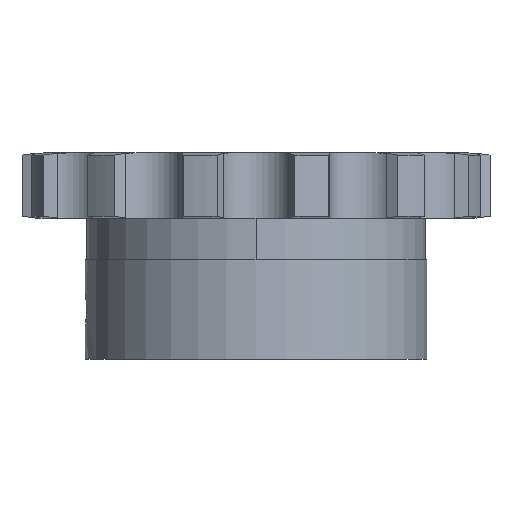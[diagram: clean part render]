
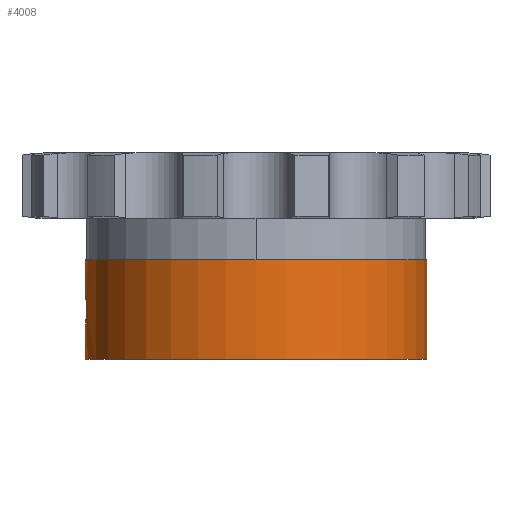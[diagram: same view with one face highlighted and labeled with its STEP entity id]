
A CAD part, front view. The second image highlights one B-rep face of the part: STEP entity #4008.
In plain terms, the highlighted cylindrical face has radius 29 mm (diameter 58 mm), a partial arc.
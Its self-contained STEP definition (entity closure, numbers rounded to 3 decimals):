
#997=CARTESIAN_POINT('',(-29.,0.,
-18.));
#1019=DIRECTION('',(0.,0.,1.));
#1020=VECTOR('',#1019,16.9);
#1021=CARTESIAN_POINT('',(29.,0.,-29.45));
#1022=LINE('',#1021,#1020);
#1145=CARTESIAN_POINT('',(0.,0.,-29.45));
#1146=DIRECTION('',(0.,0.,-1.));
#1147=DIRECTION('',(1.,0.,0.));
#1148=AXIS2_PLACEMENT_3D('',#1145,#1146,#1147);
#1174=CARTESIAN_POINT('',(-29.,0.,
-18.));
#1175=CARTESIAN_POINT('',(-29.,-0.161,
-18.));
#1176=CARTESIAN_POINT('',(-28.997,-0.479,
-18.024));
#1177=CARTESIAN_POINT('',(-28.985,-0.958,
-18.137));
#1178=CARTESIAN_POINT('',(-28.967,-1.413,
-18.323));
#1179=CARTESIAN_POINT('',(-28.943,-1.827,
-18.576));
#1180=CARTESIAN_POINT('',(-28.918,-2.193,
-18.885));
#1181=CARTESIAN_POINT('',(-28.892,-2.505,
-19.248));
#1182=CARTESIAN_POINT('',(-28.869,-2.756,
-19.656));
#1183=CARTESIAN_POINT('',(-28.851,-2.937,
-20.095));
#1184=CARTESIAN_POINT('',(-28.84,-3.043,
-20.551));
#1185=CARTESIAN_POINT('',(-28.837,-3.066,
-20.85));
#1186=CARTESIAN_POINT('',(-28.837,-3.066,
-21.));
#1191=DIRECTION('',(0.,0.,1.));
#1192=VECTOR('',#1191,5.45);
#1193=CARTESIAN_POINT('',(-29.,0.,
-18.));
#1194=LINE('',#1193,#1192);
#1198=CARTESIAN_POINT('',(0.,0.,-12.55));
#1199=DIRECTION('',(0.,0.,1.));
#1200=DIRECTION('',(-1.,0.,0.));
#1201=AXIS2_PLACEMENT_3D('',#1198,#1199,#1200);
#1206=DIRECTION('',(0.,0.,1.));
#1207=VECTOR('',#1206,5.45);
#1208=CARTESIAN_POINT('',(-29.,0.,-29.45));
#1209=LINE('',#1208,#1207);
#1213=CARTESIAN_POINT('',(-28.837,-3.066,
-21.));
#1214=CARTESIAN_POINT('',(-28.837,-3.066,
-21.149));
#1215=CARTESIAN_POINT('',(-28.84,-3.044,
-21.448));
#1216=CARTESIAN_POINT('',(-28.851,-2.937,
-21.903));
#1217=CARTESIAN_POINT('',(-28.869,-2.756,
-22.342));
#1218=CARTESIAN_POINT('',(-28.892,-2.506,
-22.751));
#1219=CARTESIAN_POINT('',(-28.918,-2.193,
-23.114));
#1220=CARTESIAN_POINT('',(-28.943,-1.828,
-23.424));
#1221=CARTESIAN_POINT('',(-28.967,-1.414,
-23.676));
#1222=CARTESIAN_POINT('',(-28.985,-0.959,
-23.863));
#1223=CARTESIAN_POINT('',(-28.997,-0.48,
-23.976));
#1224=CARTESIAN_POINT('',(-29.,-0.161,
-24.));
#1225=CARTESIAN_POINT('',(-29.,0.,
-24.));
#2681=CARTESIAN_POINT('',(-29.,0.,-29.45));
#2682=CARTESIAN_POINT('',(29.,0.,-29.45));
#2683=VERTEX_POINT('',#2681);
#2684=VERTEX_POINT('',#2682);
#2826=VERTEX_POINT('',#997);
#2829=VERTEX_POINT('',#1186);
#2831=VERTEX_POINT('',#1225);
#2841=CARTESIAN_POINT('',(29.,0.,-12.55));
#2842=CARTESIAN_POINT('',(-29.,0.,-12.55));
#2843=VERTEX_POINT('',#2841);
#2844=VERTEX_POINT('',#2842);
#3992=CARTESIAN_POINT('',(0.,0.,5.55));
#3993=DIRECTION('',(0.,0.,1.));
#3994=DIRECTION('',(1.,0.,0.));
#3995=AXIS2_PLACEMENT_3D('',#3992,#3993,#3994);
#3996=CYLINDRICAL_SURFACE('',#3995,29.);
#3998=ORIENTED_EDGE('',*,*,#3997,.F.);
#3999=ORIENTED_EDGE('',*,*,#3718,.T.);
#4000=ORIENTED_EDGE('',*,*,#3693,.T.);
#4001=ORIENTED_EDGE('',*,*,#3715,.F.);
#4002=ORIENTED_EDGE('',*,*,#3978,.T.);
#4003=ORIENTED_EDGE('',*,*,#3711,.T.);
#4005=ORIENTED_EDGE('',*,*,#4004,.F.);
#4006=EDGE_LOOP('',(#3998,#3999,#4000,#4001,#4002,#4003,#4005));
#4007=FACE_OUTER_BOUND('',#4006,.F.);
#4008=ADVANCED_FACE('',(#4007),#3996,.T.);
#1149=CIRCLE('',#1148,29.);
#1187=B_SPLINE_CURVE_WITH_KNOTS('',3,(#1174,#1175,#1176,#1177,#1178,#1179,#1180,
#1181,#1182,#1183,#1184,#1185,#1186),.UNSPECIFIED.,.F.,.F.,(4,1,1,1,1,1,1,1,1,1,
4),(0.,0.1,0.2,0.3,0.4,0.5,0.6,0.7,0.8,0.9,1.),
.UNSPECIFIED.);
#1202=CIRCLE('',#1201,29.);
#1226=B_SPLINE_CURVE_WITH_KNOTS('',3,(#1213,#1214,#1215,#1216,#1217,#1218,#1219,
#1220,#1221,#1222,#1223,#1224,#1225),.UNSPECIFIED.,.F.,.F.,(4,1,1,1,1,1,1,1,1,1,
4),(0.,0.1,0.2,0.3,0.4,0.5,0.6,0.7,0.8,0.9,1.),
.UNSPECIFIED.);
#3693=EDGE_CURVE('',#2844,#2843,#1202,.T.);
#3711=EDGE_CURVE('',#2683,#2831,#1209,.T.);
#3715=EDGE_CURVE('',#2684,#2843,#1022,.T.);
#3718=EDGE_CURVE('',#2826,#2844,#1194,.T.);
#3978=EDGE_CURVE('',#2684,#2683,#1149,.T.);
#3997=EDGE_CURVE('',#2826,#2829,#1187,.T.);
#4004=EDGE_CURVE('',#2829,#2831,#1226,.T.);
